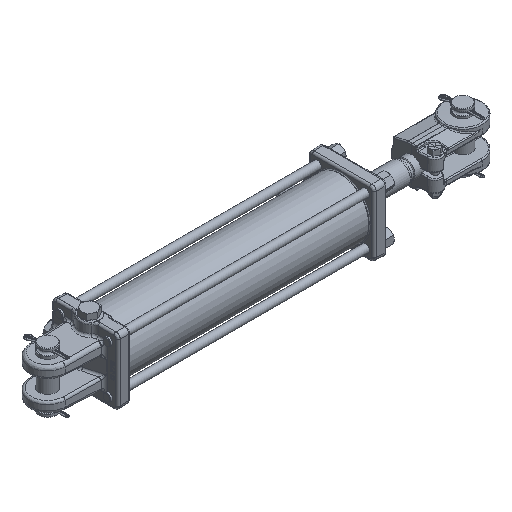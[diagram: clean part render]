
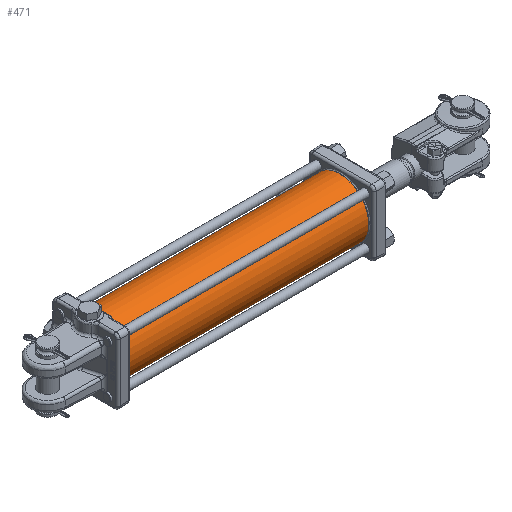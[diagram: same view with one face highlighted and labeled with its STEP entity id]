
A CAD part, isometric view. The second image highlights one B-rep face of the part: STEP entity #471.
In plain terms, the highlighted cylindrical face has radius 42.862 mm (diameter 85.725 mm), a full revolution.
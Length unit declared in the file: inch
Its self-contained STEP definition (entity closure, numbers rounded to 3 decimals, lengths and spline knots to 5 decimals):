
#210=CARTESIAN_POINT('',(-0.842,1.68662,0.0545));
#211=VERTEX_POINT('',#210);
#212=CARTESIAN_POINT('',(-0.842,1.68662,0.0545));
#213=CARTESIAN_POINT('',(-0.84884,1.68662,0.0545));
#214=CARTESIAN_POINT('',(-0.85614,1.68667,0.05313));
#215=CARTESIAN_POINT('',(-0.86957,1.68683,0.04757));
#216=CARTESIAN_POINT('',(-0.8757,1.68695,0.04338));
#217=CARTESIAN_POINT('',(-0.88538,1.68717,0.0337));
#218=CARTESIAN_POINT('',(-0.88957,1.68729,0.02757));
#219=CARTESIAN_POINT('',(-0.89513,1.68745,0.01414));
#220=CARTESIAN_POINT('',(-0.8965,1.6875,0.00684));
#221=CARTESIAN_POINT('',(-0.8965,1.6875,-0.00684));
#222=CARTESIAN_POINT('',(-0.89513,1.68745,-0.01414));
#223=CARTESIAN_POINT('',(-0.88957,1.68729,-0.02757));
#224=CARTESIAN_POINT('',(-0.88538,1.68717,-0.0337));
#225=CARTESIAN_POINT('',(-0.8757,1.68695,-0.04338));
#226=CARTESIAN_POINT('',(-0.86957,1.68683,-0.04757));
#227=CARTESIAN_POINT('',(-0.85614,1.68667,-0.05313));
#228=CARTESIAN_POINT('',(-0.84884,1.68662,-0.0545));
#229=CARTESIAN_POINT('',(-0.83516,1.68662,-0.0545));
#230=CARTESIAN_POINT('',(-0.82786,1.68667,-0.05313));
#231=CARTESIAN_POINT('',(-0.81443,1.68683,-0.04757));
#232=CARTESIAN_POINT('',(-0.8083,1.68695,-0.04338));
#233=CARTESIAN_POINT('',(-0.79862,1.68717,-0.0337));
#234=CARTESIAN_POINT('',(-0.79443,1.68729,-0.02757));
#235=CARTESIAN_POINT('',(-0.78887,1.68745,-0.01414));
#236=CARTESIAN_POINT('',(-0.7875,1.6875,-0.00684));
#237=CARTESIAN_POINT('',(-0.7875,1.6875,0.00684));
#238=CARTESIAN_POINT('',(-0.78887,1.68745,0.01414));
#239=CARTESIAN_POINT('',(-0.79443,1.68729,0.02757));
#240=CARTESIAN_POINT('',(-0.79862,1.68717,0.0337));
#241=CARTESIAN_POINT('',(-0.8083,1.68695,0.04338));
#242=CARTESIAN_POINT('',(-0.81443,1.68683,0.04757));
#243=CARTESIAN_POINT('',(-0.82786,1.68667,0.05313));
#244=CARTESIAN_POINT('',(-0.83516,1.68662,0.0545));
#245=CARTESIAN_POINT('',(-0.842,1.68662,0.0545));
#246=B_SPLINE_CURVE_WITH_KNOTS('',3,(#212,#213,#214,#215,#216,#217,#218,#219,#220,#221,#222,#223,#224,#225,#226,#227,#228,#229,#230,#231,#232,#233,#234,#235,#236,#237,#238,#239,#240,#241,#242,#243,#244,#245),.UNSPECIFIED.,.T.,.U.,(4,2,2,2,2,2,2,2,2,2,2,2,2,2,2,2,4),(0.0,0.05215,0.1043,0.15645,0.20859,0.26074,0.31289,0.36504,0.41719,0.46934,0.52149,0.57363,0.62578,0.67793,0.73008,0.78223,0.83438),.UNSPECIFIED.);
#247=EDGE_CURVE('',#211,#211,#246,.T.);
#298=CARTESIAN_POINT('',(-1.222,1.68722,0.031));
#299=VERTEX_POINT('',#298);
#300=CARTESIAN_POINT('',(-1.222,1.68722,0.031));
#301=CARTESIAN_POINT('',(-1.22589,1.68722,0.031));
#302=CARTESIAN_POINT('',(-1.23004,1.68723,0.03022));
#303=CARTESIAN_POINT('',(-1.23768,1.68728,0.02706));
#304=CARTESIAN_POINT('',(-1.24117,1.68732,0.02467));
#305=CARTESIAN_POINT('',(-1.24667,1.68739,0.01917));
#306=CARTESIAN_POINT('',(-1.24906,1.68743,0.01568));
#307=CARTESIAN_POINT('',(-1.25222,1.68749,0.00804));
#308=CARTESIAN_POINT('',(-1.253,1.6875,0.00389));
#309=CARTESIAN_POINT('',(-1.253,1.6875,-0.00389));
#310=CARTESIAN_POINT('',(-1.25222,1.68749,-0.00804));
#311=CARTESIAN_POINT('',(-1.24906,1.68743,-0.01568));
#312=CARTESIAN_POINT('',(-1.24667,1.68739,-0.01917));
#313=CARTESIAN_POINT('',(-1.24117,1.68732,-0.02467));
#314=CARTESIAN_POINT('',(-1.23768,1.68728,-0.02706));
#315=CARTESIAN_POINT('',(-1.23004,1.68723,-0.03022));
#316=CARTESIAN_POINT('',(-1.22589,1.68722,-0.031));
#317=CARTESIAN_POINT('',(-1.21811,1.68722,-0.031));
#318=CARTESIAN_POINT('',(-1.21396,1.68723,-0.03022));
#319=CARTESIAN_POINT('',(-1.20632,1.68728,-0.02706));
#320=CARTESIAN_POINT('',(-1.20283,1.68732,-0.02467));
#321=CARTESIAN_POINT('',(-1.19733,1.68739,-0.01917));
#322=CARTESIAN_POINT('',(-1.19494,1.68743,-0.01568));
#323=CARTESIAN_POINT('',(-1.19178,1.68749,-0.00804));
#324=CARTESIAN_POINT('',(-1.191,1.6875,-0.00389));
#325=CARTESIAN_POINT('',(-1.191,1.6875,0.00389));
#326=CARTESIAN_POINT('',(-1.19178,1.68749,0.00804));
#327=CARTESIAN_POINT('',(-1.19494,1.68743,0.01568));
#328=CARTESIAN_POINT('',(-1.19733,1.68739,0.01917));
#329=CARTESIAN_POINT('',(-1.20283,1.68732,0.02467));
#330=CARTESIAN_POINT('',(-1.20632,1.68728,0.02706));
#331=CARTESIAN_POINT('',(-1.21396,1.68723,0.03022));
#332=CARTESIAN_POINT('',(-1.21811,1.68722,0.031));
#333=CARTESIAN_POINT('',(-1.222,1.68722,0.031));
#334=B_SPLINE_CURVE_WITH_KNOTS('',3,(#300,#301,#302,#303,#304,#305,#306,#307,#308,#309,#310,#311,#312,#313,#314,#315,#316,#317,#318,#319,#320,#321,#322,#323,#324,#325,#326,#327,#328,#329,#330,#331,#332,#333),.UNSPECIFIED.,.T.,.U.,(4,2,2,2,2,2,2,2,2,2,2,2,2,2,2,2,4),(0.0,0.02966,0.05932,0.08898,0.11864,0.14831,0.17797,0.20763,0.23729,0.26695,0.29661,0.32627,0.35593,0.38559,0.41525,0.44492,0.47458),.UNSPECIFIED.);
#335=EDGE_CURVE('',#299,#299,#334,.T.);
#345=CARTESIAN_POINT('',(0.,1.6875,0.0));
#346=VERTEX_POINT('',#345);
#347=CARTESIAN_POINT('',(0.,0.0,0.0));
#348=DIRECTION('',(1.0,0.0,0.0));
#349=DIRECTION('',(0.0,1.0,0.0));
#350=AXIS2_PLACEMENT_3D('',#347,#348,#349);
#351=CIRCLE('',#350,1.6875);
#352=EDGE_CURVE('',#346,#346,#351,.T.);
#439=CARTESIAN_POINT('',(-14.094,1.6875,0.0));
#440=VERTEX_POINT('',#439);
#441=CARTESIAN_POINT('',(-14.094,0.0,0.0));
#442=DIRECTION('',(1.0,0.0,0.0));
#443=DIRECTION('',(0.0,1.0,0.0));
#444=AXIS2_PLACEMENT_3D('',#441,#442,#443);
#445=CIRCLE('',#444,1.6875);
#446=EDGE_CURVE('',#440,#440,#445,.T.);
#454=CARTESIAN_POINT('',(-7.047,0.0,0.0));
#455=DIRECTION('',(1.0,0.0,0.0));
#456=DIRECTION('',(0.0,1.0,0.0));
#457=AXIS2_PLACEMENT_3D('',#454,#455,#456);
#458=CYLINDRICAL_SURFACE('',#457,1.6875);
#459=ORIENTED_EDGE('',*,*,#352,.F.);
#460=EDGE_LOOP('',(#459));
#461=FACE_OUTER_BOUND('',#460,.T.);
#462=ORIENTED_EDGE('',*,*,#247,.T.);
#463=EDGE_LOOP('',(#462));
#464=FACE_BOUND('',#463,.T.);
#465=ORIENTED_EDGE('',*,*,#335,.T.);
#466=EDGE_LOOP('',(#465));
#467=FACE_BOUND('',#466,.T.);
#468=ORIENTED_EDGE('',*,*,#446,.T.);
#469=EDGE_LOOP('',(#468));
#470=FACE_BOUND('',#469,.T.);
#471=ADVANCED_FACE('',(#461,#464,#467,#470),#458,.T.);
